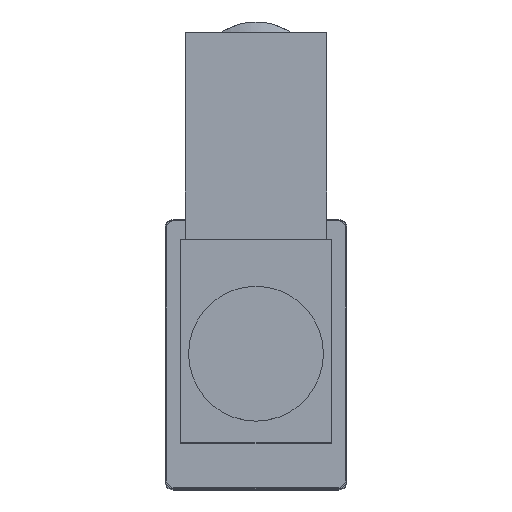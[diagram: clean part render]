
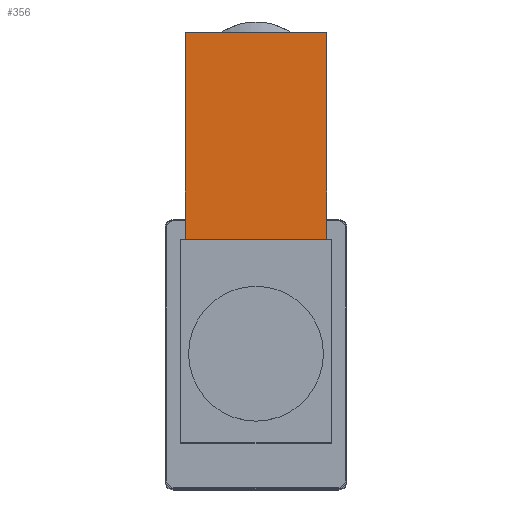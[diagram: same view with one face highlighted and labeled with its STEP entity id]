
A CAD part, top view. The second image highlights one B-rep face of the part: STEP entity #356.
In plain terms, the highlighted planar face has unit normal (0, 0, 1).
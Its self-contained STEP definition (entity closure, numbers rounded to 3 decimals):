
#356 = ADVANCED_FACE( '', ( #794 ), #795, .F. );
#794 = FACE_OUTER_BOUND( '', #1313, .T. );
#795 = PLANE( '', #1314 );
#1313 = EDGE_LOOP( '', ( #2224, #2225, #2226, #2227 ) );
#1314 = AXIS2_PLACEMENT_3D( '', #2228, #2229, #2230 );
#2224 = ORIENTED_EDGE( '', *, *, #2790, .F. );
#2225 = ORIENTED_EDGE( '', *, *, #3075, .F. );
#2226 = ORIENTED_EDGE( '', *, *, #3076, .F. );
#2227 = ORIENTED_EDGE( '', *, *, #3077, .T. );
#2228 = CARTESIAN_POINT( '', ( -10.5, 47.7, 55.5 ) );
#2229 = DIRECTION( '', ( 0., 0., -1. ) );
#2230 = DIRECTION( '', ( -1., 0., 0. ) );
#2790 = EDGE_CURVE( '', #3295, #3290, #3297, .T. );
#3075 = EDGE_CURVE( '', #3739, #3295, #3740, .T. );
#3076 = EDGE_CURVE( '', #3741, #3739, #3742, .T. );
#3077 = EDGE_CURVE( '', #3741, #3290, #3743, .T. );
#3290 = VERTEX_POINT( '', #4008 );
#3295 = VERTEX_POINT( '', #4015 );
#3297 = LINE( '', #4018, #4019 );
#3739 = VERTEX_POINT( '', #4622 );
#3740 = LINE( '', #4623, #4624 );
#3741 = VERTEX_POINT( '', #4625 );
#3742 = LINE( '', #4626, #4627 );
#3743 = LINE( '', #4628, #4629 );
#4008 = CARTESIAN_POINT( '', ( -10.5, 17., 55.5 ) );
#4015 = CARTESIAN_POINT( '', ( 10.5, 17., 55.5 ) );
#4018 = CARTESIAN_POINT( '', ( 0., 17., 55.5 ) );
#4019 = VECTOR( '', #4860, 1000. );
#4622 = CARTESIAN_POINT( '', ( 10.5, 47.7, 55.5 ) );
#4623 = CARTESIAN_POINT( '', ( 10.5, 47.7, 55.5 ) );
#4624 = VECTOR( '', #5223, 1000. );
#4625 = CARTESIAN_POINT( '', ( -10.5, 47.7, 55.5 ) );
#4626 = CARTESIAN_POINT( '', ( -10.5, 47.7, 55.5 ) );
#4627 = VECTOR( '', #5224, 1000. );
#4628 = CARTESIAN_POINT( '', ( -10.5, 47.7, 55.5 ) );
#4629 = VECTOR( '', #5225, 1000. );
#4860 = DIRECTION( '', ( -1., 0., 0. ) );
#5223 = DIRECTION( '', ( 0., -1., 0. ) );
#5224 = DIRECTION( '', ( 1., 0., 0. ) );
#5225 = DIRECTION( '', ( 0., -1., 0. ) );
